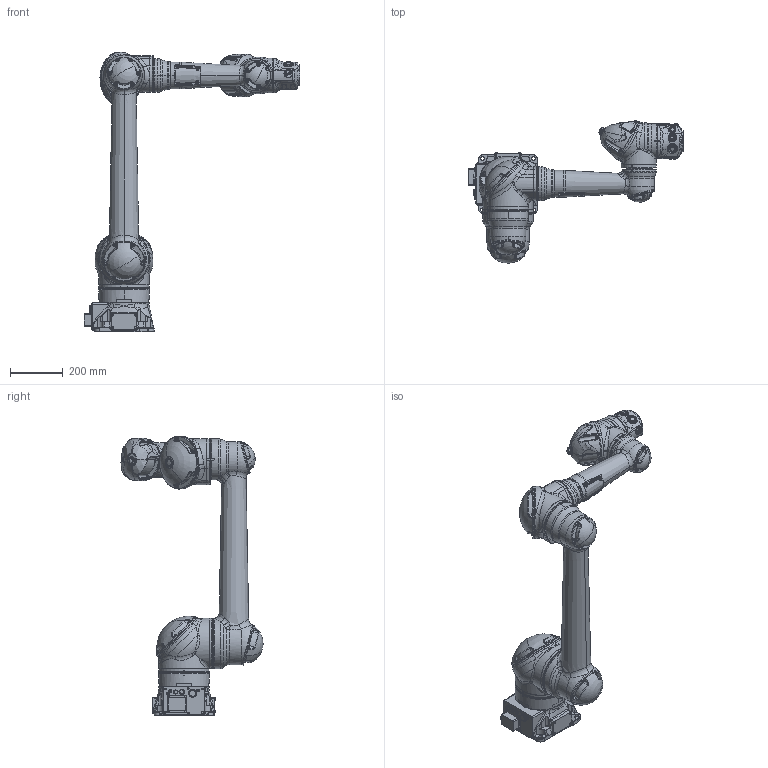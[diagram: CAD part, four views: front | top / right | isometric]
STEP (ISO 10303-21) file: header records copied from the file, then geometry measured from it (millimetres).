
FILE_DESCRIPTION(/* description */ (''),/* implementation_level */ '2;1');
FILE_NAME(/* name */ 'HC10-B10.stp',/* time_stamp */ '2019-11-28T16:58:14+01:00',/* author */ (''),/* organization */ (''),/* preprocessor_version */ 'ST-DEVELOPER v16.7',/* originating_system */ 'SIEMENS PLM Software NX 12.0',/* authorisation */ '');
FILE_SCHEMA (('AUTOMOTIVE_DESIGN { 1 0 10303 214 3 1 1 1 }'));
Products named in the file (8): T_AXIS_A; B_AXIS; R_AXIS; U_AXIS_; L_AXIS; S_AXIS; BASE; HC10-B10
Assembly tree (7 placements, depth 2):
  HC10-B10
    BASE
    S_AXIS
    L_AXIS
    U_AXIS_
    R_AXIS
    B_AXIS
    T_AXIS_A
Bounding box: 821.15 x 540.41 x 1063.5 mm (x, y, z)
Volume: 36351954.4 mm3; surface area: 1380094.8 mm2
Topology: 7 solids, 26 shells, 4087 faces, 9893 edges, 6008 vertices
Faces by surface type: plane 1432, bspline 973, cylinder 703, cone 633, torus 320, sphere 24, extrusion 2
Entity records: 205971 total; most frequent: CARTESIAN_POINT 106657, ORIENTED_EDGE 19698, DIRECTION 15650, EDGE_CURVE 9849, AXIS2_PLACEMENT_3D 6230, VERTEX_POINT 6008, EDGE_LOOP 4303, ADVANCED_FACE 4087
